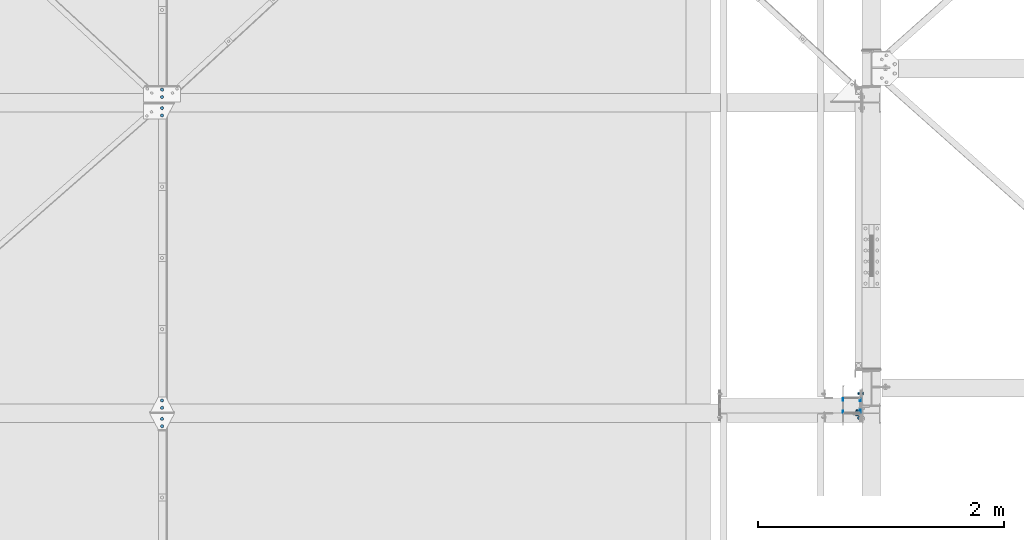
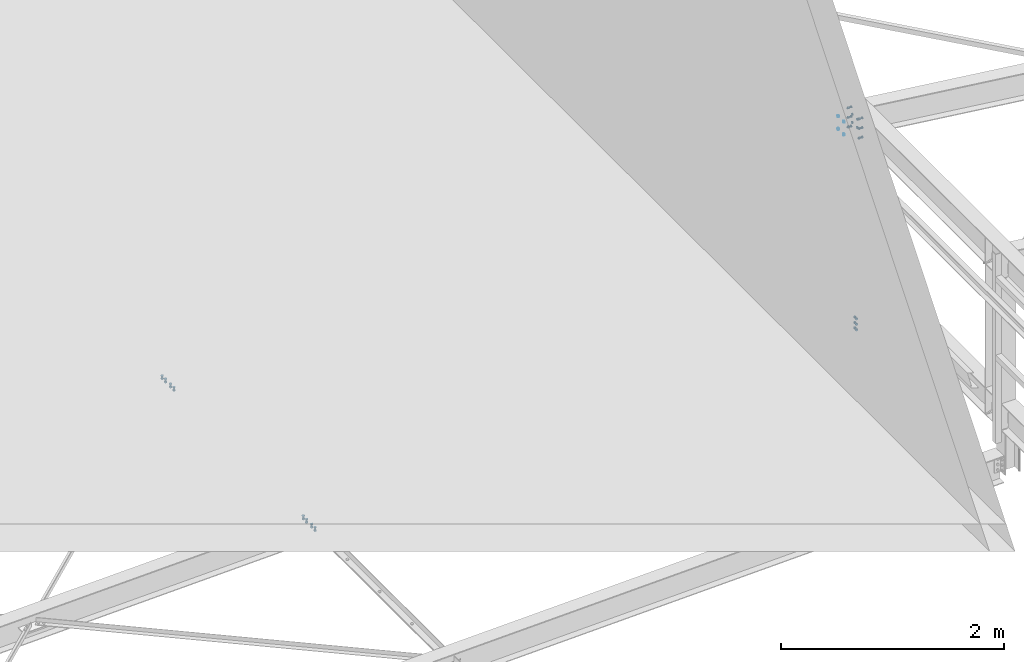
# One storey, part 97 of 3134: 8 mechanical fasteners, 5 elements without a shape of their own.
"""IFC2X3 building model written with IfcOpenShell, lengths in millimetres."""

from ifc_helpers import new_model, si_unit, frame, origin_with_axes, place, context, subcontext, project, spatial, faceted_brep, source, transform, mapped, material, type_object, element, aggregate, save


model = new_model("IFC2X3")

# Units and contexts
model_context = context("Model", 3, precision=1e-05, world=origin_with_axes())
body_context = subcontext(model_context, "Body", "Model", "MODEL_VIEW")
ifc_project = project(units=[si_unit("LENGTHUNIT", "METRE", prefix="MILLI"), si_unit("AREAUNIT", "SQUARE_METRE"), si_unit("VOLUMEUNIT", "CUBIC_METRE"), si_unit("MASSUNIT", "GRAM", prefix="KILO"), si_unit("TIMEUNIT", "SECOND"), si_unit("PLANEANGLEUNIT", "RADIAN"), si_unit("SOLIDANGLEUNIT", "STERADIAN"), si_unit("THERMODYNAMICTEMPERATUREUNIT", "DEGREE_CELSIUS"), si_unit("LUMINOUSINTENSITYUNIT", "LUMEN")], contexts=[model_context])

# Site, building, storey
site_placement = place(None, origin_with_axes())
site = spatial("IfcSite", under=ifc_project, at=site_placement, CompositionType="ELEMENT")
building_placement = place(site_placement, origin_with_axes())
building = spatial("IfcBuilding", under=site, at=building_placement, Name="Undefined", CompositionType="ELEMENT")
storey_placement = place(building_placement, origin_with_axes())
storey = spatial("IfcBuildingStorey", under=building, at=storey_placement, Name="Undefined", CompositionType="ELEMENT", Elevation=0.0)

# Assembly, mechanical fasteners
assembly_1_placement = place(storey_placement, origin_with_axes())
assembly_1 = element("IfcElementAssembly", 1, at=assembly_1_placement, inside=storey, AssemblyPlace="NOTDEFINED", PredefinedType="RIGID_FRAME")
ifc_material = material(Name="8.8")
mechanical_fastener_type = type_object("IfcMechanicalFastenerType", Name="Bolt assembly")
shared_shape_1 = source(origin_with_axes(), body_context, "Body", "Brep", [
    faceted_brep([(9.0, -3.46568413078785e-07, 0.0), (7.79422863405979, -3.46568413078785e-07, 4.50000000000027), (4.49999999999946, -3.46568413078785e-07, 7.79422863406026), (-9.3270238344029e-13, -3.46568413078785e-07, 9.0), (-4.50000000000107, -3.46568413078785e-07, 7.79422863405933), (-7.79422863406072, -3.46568413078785e-07, 4.49999999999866), (-9.0, -3.46568413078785e-07, -1.86540476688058e-12), (-7.79422863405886, -3.46568413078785e-07, -4.50000000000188), (-4.49999999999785, -3.46568413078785e-07, -7.79422863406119), (2.78811514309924e-12, -3.46568413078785e-07, -9.0), (4.50000000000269, -3.46568413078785e-07, -7.7942286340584), (7.79422863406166, -3.46568413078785e-07, -4.49999999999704), (7.79422863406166, 6.1, -4.49999999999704), (4.50000000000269, 6.1, -7.7942286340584), (2.78811514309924e-12, 6.1, -9.0), (-4.49999999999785, 6.1, -7.79422863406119), (-7.79422863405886, 6.1, -4.50000000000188), (-9.0, 6.1, -1.86540476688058e-12), (-7.79422863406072, 6.1, 4.49999999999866), (-4.50000000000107, 6.1, 7.79422863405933), (-9.3270238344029e-13, 6.1, 9.0), (4.49999999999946, 6.1, 7.79422863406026), (7.79422863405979, 6.1, 4.50000000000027), (9.0, 6.1, 0.0)], [[[0, 1, 2, 3, 4, 5, 6, 7, 8, 9, 10, 11]], [[12, 13, 14, 15, 16, 17, 18, 19, 20, 21, 22, 23]], [[0, 23, 22, 1]], [[1, 22, 21, 2]], [[2, 21, 20, 3]], [[3, 20, 19, 4]], [[4, 19, 18, 5]], [[5, 18, 17, 6]], [[6, 17, 16, 7]], [[7, 16, 15, 8]], [[8, 15, 14, 9]], [[9, 14, 13, 10]], [[10, 13, 12, 11]], [[11, 12, 23, 0]]]),
])
mechanical_fastener_1_placement = place(assembly_1_placement, frame((20615.0, 27156.5019072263, 5760.0), z_axis=(0.0, 0.0, 1.0), x_axis=(0.0, -1.0, 0.0)))
mechanical_fastener_1 = element("IfcMechanicalFastener", 2, at=mechanical_fastener_1_placement, type_object=mechanical_fastener_type, material=ifc_material, Name="Bolt assembly", NominalDiameter=16.0, NominalLength=6.0, context=body_context, shape_type="MappedRepresentation", body=[
    mapped(shared_shape_1, transform((0.0, 0.0, -70.0))),
    mapped(shared_shape_1, transform((100.0, 0.0, -70.0))),
    mapped(shared_shape_1, transform((0.0, 0.0, 70.0))),
    mapped(shared_shape_1, transform((100.0, 0.0, 70.0))),
])
shared_shape_2 = source(origin_with_axes(), body_context, "Body", "Brep", [
    faceted_brep([(11.0, 0.0, 0.0), (9.52627944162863, 0.0, 5.50000000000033), (5.49999999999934, 0.0, 9.5262794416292), (-1.13996957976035e-12, 0.0, 11.0), (-5.50000000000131, 0.0, 9.52627944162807), (-9.52627944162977, 0.0, 5.49999999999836), (-11.0, 0.0, -2.27993915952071e-12), (-9.5262794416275, 0.0, -5.5000000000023), (-5.49999999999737, 0.0, -9.52627944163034), (3.40769628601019e-12, 0.0, -11.0), (5.50000000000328, 0.0, -9.52627944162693), (9.52627944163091, 0.0, -5.49999999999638), (9.52627944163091, 10.1, -5.49999999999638), (5.50000000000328, 10.1, -9.52627944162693), (3.40769628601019e-12, 10.1, -11.0), (-5.49999999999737, 10.1, -9.52627944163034), (-9.5262794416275, 10.1, -5.5000000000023), (-11.0, 10.1, -2.27993915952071e-12), (-9.52627944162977, 10.1, 5.49999999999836), (-5.50000000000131, 10.1, 9.52627944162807), (-1.13996957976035e-12, 10.1, 11.0), (5.49999999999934, 10.1, 9.5262794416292), (9.52627944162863, 10.1, 5.50000000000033), (11.0, 10.1, 0.0)], [[[0, 1, 2, 3, 4, 5, 6, 7, 8, 9, 10, 11]], [[12, 13, 14, 15, 16, 17, 18, 19, 20, 21, 22, 23]], [[0, 23, 22, 1]], [[1, 22, 21, 2]], [[2, 21, 20, 3]], [[3, 20, 19, 4]], [[4, 19, 18, 5]], [[5, 18, 17, 6]], [[6, 17, 16, 7]], [[7, 16, 15, 8]], [[8, 15, 14, 9]], [[9, 14, 13, 10]], [[10, 13, 12, 11]], [[11, 12, 23, 0]]]),
])
mechanical_fastener_2_placement = place(assembly_1_placement, frame((20755.0, 27151.5019072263, 5760.0), z_axis=(0.0, 0.0, 1.0), x_axis=(0.0, -1.0, 0.0)))
mechanical_fastener_2 = element("IfcMechanicalFastener", 3, at=mechanical_fastener_2_placement, type_object=mechanical_fastener_type, material=ifc_material, Name="Bolt assembly", NominalDiameter=20.0, NominalLength=10.0, context=body_context, shape_type="MappedRepresentation", body=[
    mapped(shared_shape_2, transform((0.0, 0.0, -45.0))),
    mapped(shared_shape_2, transform((90.0, 0.0, -45.0))),
    mapped(shared_shape_2, transform((0.0, 0.0, 45.0))),
    mapped(shared_shape_2, transform((90.0, 0.0, 45.0))),
])
aggregate(assembly_1, [mechanical_fastener_2, mechanical_fastener_1])

# Assembly, mechanical fastener
assembly_2_placement = place(storey_placement, origin_with_axes())
assembly_2 = element("IfcElementAssembly", 4, at=assembly_2_placement, inside=storey, Name="300", AssemblyPlace="NOTDEFINED", PredefinedType="RIGID_FRAME")
shared_shape_3 = source(origin_with_axes(), body_context, "Body", "Brep", [
    faceted_brep([(13.856406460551, -30.0, 0.0), (6.92820323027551, -30.0, 12.0), (-6.92820323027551, -30.0, 12.0), (-13.856406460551, -30.0, 1.69692038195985e-15), (-6.92820323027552, -30.0, -12.0), (6.9282032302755, -30.0, -12.0), (6.9282032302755, -20.0, -12.0), (-6.92820323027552, -20.0, -12.0), (-13.856406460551, -20.0, 1.69692038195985e-15), (-6.92820323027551, -20.0, 12.0), (6.92820323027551, -20.0, 12.0), (13.856406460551, -20.0, 0.0), (8.0, -20.0, 0.0), (6.92820323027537, -20.0, 4.00000000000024), (3.99999999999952, -20.0, 6.92820323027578), (-8.29068785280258e-13, -20.0, 8.0), (-4.00000000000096, -20.0, 6.92820323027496), (-6.9282032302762, -20.0, 3.99999999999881), (-8.0, -20.0, -1.65813757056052e-12), (-6.92820323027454, -20.0, -4.00000000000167), (-3.99999999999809, -20.0, -6.92820323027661), (2.47832457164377e-12, -20.0, -8.0), (4.00000000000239, -20.0, -6.92820323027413), (6.92820323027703, -20.0, -3.99999999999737), (6.92820323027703, 20.0, -3.99999999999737), (4.00000000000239, 20.0, -6.92820323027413), (2.47832457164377e-12, 20.0, -8.0), (-3.99999999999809, 20.0, -6.92820323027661), (-6.92820323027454, 20.0, -4.00000000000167), (-8.0, 20.0, -1.65813757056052e-12), (-6.9282032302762, 20.0, 3.99999999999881), (-4.00000000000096, 20.0, 6.92820323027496), (-8.29068785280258e-13, 20.0, 8.0), (3.99999999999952, 20.0, 6.92820323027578), (6.92820323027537, 20.0, 4.00000000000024), (8.0, 20.0, 0.0), (13.856406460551, 0.0, 0.0), (6.92820323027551, 0.0, 12.0), (-6.92820323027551, 0.0, 12.0), (-13.856406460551, 0.0, 1.69692038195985e-15), (-6.92820323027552, 0.0, -12.0), (6.9282032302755, 0.0, -12.0), (6.9282032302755, 12.9999996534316, -12.0), (-6.92820323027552, 12.9999996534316, -12.0), (-13.856406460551, 12.9999996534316, 1.69692038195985e-15), (-6.92820323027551, 12.9999996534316, 12.0), (6.92820323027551, 12.9999996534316, 12.0), (13.856406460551, 12.9999996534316, 0.0)], [[[0, 1, 2, 3, 4, 5]], [[6, 7, 8, 9, 10, 11]], [[0, 11, 10, 1]], [[1, 10, 9, 2]], [[2, 9, 8, 3]], [[3, 8, 7, 4]], [[4, 7, 6, 5]], [[5, 6, 11, 0]], [[12, 13, 14, 15, 16, 17, 18, 19, 20, 21, 22, 23]], [[24, 25, 26, 27, 28, 29, 30, 31, 32, 33, 34, 35]], [[12, 35, 34, 13]], [[13, 34, 33, 14]], [[14, 33, 32, 15]], [[15, 32, 31, 16]], [[16, 31, 30, 17]], [[17, 30, 29, 18]], [[18, 29, 28, 19]], [[19, 28, 27, 20]], [[20, 27, 26, 21]], [[21, 26, 25, 22]], [[22, 25, 24, 23]], [[23, 24, 35, 12]], [[36, 37, 38, 39, 40, 41]], [[42, 43, 44, 45, 46, 47]], [[36, 47, 46, 37]], [[37, 46, 45, 38]], [[38, 45, 44, 39]], [[39, 44, 43, 40]], [[40, 43, 42, 41]], [[41, 42, 47, 36]]]),
    faceted_brep([(9.0, -10.1000003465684, 0.0), (7.79422863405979, -10.1000003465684, 4.50000000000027), (4.49999999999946, -10.1000003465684, 7.79422863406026), (-9.3270238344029e-13, -10.1000003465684, 9.0), (-4.50000000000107, -10.1000003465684, 7.79422863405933), (-7.79422863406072, -10.1000003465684, 4.49999999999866), (-9.0, -10.1000003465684, -1.86540476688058e-12), (-7.79422863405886, -10.1000003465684, -4.50000000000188), (-4.49999999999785, -10.1000003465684, -7.79422863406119), (2.78811514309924e-12, -10.1000003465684, -9.0), (4.50000000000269, -10.1000003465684, -7.7942286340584), (7.79422863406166, -10.1000003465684, -4.49999999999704), (7.79422863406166, -3.46568413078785e-07, -4.49999999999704), (4.50000000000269, -3.46568413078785e-07, -7.7942286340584), (2.78811514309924e-12, -3.46568413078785e-07, -9.0), (-4.49999999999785, -3.46568413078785e-07, -7.79422863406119), (-7.79422863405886, -3.46568413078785e-07, -4.50000000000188), (-9.0, -3.46568413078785e-07, -1.86540476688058e-12), (-7.79422863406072, -3.46568413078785e-07, 4.49999999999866), (-4.50000000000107, -3.46568413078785e-07, 7.79422863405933), (-9.3270238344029e-13, -3.46568413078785e-07, 9.0), (4.49999999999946, -3.46568413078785e-07, 7.79422863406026), (7.79422863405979, -3.46568413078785e-07, 4.50000000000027), (9.0, -3.46568413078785e-07, 0.0), (9.0, -19.9, 0.0), (7.79422863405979, -19.9, 4.50000000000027), (4.49999999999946, -19.9, 7.79422863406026), (-9.3270238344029e-13, -19.9, 9.0), (-4.50000000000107, -19.9, 7.79422863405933), (-7.79422863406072, -19.9, 4.49999999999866), (-9.0, -19.9, -1.86540476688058e-12), (-7.79422863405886, -19.9, -4.50000000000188), (-4.49999999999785, -19.9, -7.79422863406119), (2.78811514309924e-12, -19.9, -9.0), (4.50000000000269, -19.9, -7.7942286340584), (7.79422863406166, -19.9, -4.49999999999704), (7.79422863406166, -9.89999997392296, -4.49999999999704), (4.50000000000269, -9.89999997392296, -7.7942286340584), (2.78811514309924e-12, -9.89999997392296, -9.0), (-4.49999999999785, -9.89999997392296, -7.79422863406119), (-7.79422863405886, -9.89999997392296, -4.50000000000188), (-9.0, -9.89999997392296, -1.86540476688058e-12), (-7.79422863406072, -9.89999997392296, 4.49999999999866), (-4.50000000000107, -9.89999997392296, 7.79422863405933), (-9.3270238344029e-13, -9.89999997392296, 9.0), (4.49999999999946, -9.89999997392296, 7.79422863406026), (7.79422863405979, -9.89999997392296, 4.50000000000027), (9.0, -9.89999997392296, 0.0)], [[[0, 1, 2, 3, 4, 5, 6, 7, 8, 9, 10, 11]], [[12, 13, 14, 15, 16, 17, 18, 19, 20, 21, 22, 23]], [[0, 23, 22, 1]], [[1, 22, 21, 2]], [[2, 21, 20, 3]], [[3, 20, 19, 4]], [[4, 19, 18, 5]], [[5, 18, 17, 6]], [[6, 17, 16, 7]], [[7, 16, 15, 8]], [[8, 15, 14, 9]], [[9, 14, 13, 10]], [[10, 13, 12, 11]], [[11, 12, 23, 0]], [[24, 25, 26, 27, 28, 29, 30, 31, 32, 33, 34, 35]], [[36, 37, 38, 39, 40, 41, 42, 43, 44, 45, 46, 47]], [[24, 47, 46, 25]], [[25, 46, 45, 26]], [[26, 45, 44, 27]], [[27, 44, 43, 28]], [[28, 43, 42, 29]], [[29, 42, 41, 30]], [[30, 41, 40, 31]], [[31, 40, 39, 32]], [[32, 39, 38, 33]], [[33, 38, 37, 34]], [[34, 37, 36, 35]], [[35, 36, 47, 24]]]),
])
mechanical_fastener_3_placement = place(assembly_2_placement, frame((20755.0, 27106.5019072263, 5846.5), z_axis=(0.0, 1.0, 0.0), x_axis=(0.0, 0.0, -1.0)))
mechanical_fastener_3 = element("IfcMechanicalFastener", 5, at=mechanical_fastener_3_placement, type_object=mechanical_fastener_type, material=ifc_material, Name="Bolt assembly", NominalDiameter=16.0, NominalLength=40.0, context=body_context, shape_type="MappedRepresentation", body=[
    mapped(shared_shape_3, transform((0.0, 0.0, -100.0))),
    mapped(shared_shape_3, transform((105.0, 0.0, -100.0))),
    mapped(shared_shape_3, transform((210.0, 0.0, -100.0))),
    mapped(shared_shape_3, transform((0.0, 0.0, 100.0))),
    mapped(shared_shape_3, transform((105.0, 0.0, 100.0))),
    mapped(shared_shape_3, transform((210.0, 0.0, 100.0))),
])
aggregate(assembly_2, [mechanical_fastener_3])

# Assembly, mechanical fasteners
assembly_3_placement = place(storey_placement, origin_with_axes())
assembly_3 = element("IfcElementAssembly", 6, at=assembly_3_placement, inside=storey, Name="300", AssemblyPlace="NOTDEFINED", PredefinedType="RIGID_FRAME")
shared_shape_4 = source(origin_with_axes(), body_context, "Body", "Brep", [
    faceted_brep([(13.856406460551, -21.0000017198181, 0.0), (6.92820323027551, -21.0000017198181, 12.0), (-6.92820323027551, -21.0000017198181, 12.0), (-13.856406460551, -21.0000017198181, 1.69692038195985e-15), (-6.92820323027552, -21.0000017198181, -12.0), (6.9282032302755, -21.0000017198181, -12.0), (6.9282032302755, -11.0000017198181, -12.0), (-6.92820323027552, -11.0000017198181, -12.0), (-13.856406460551, -11.0000017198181, 1.69692038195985e-15), (-6.92820323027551, -11.0000017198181, 12.0), (6.92820323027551, -11.0000017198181, 12.0), (13.856406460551, -11.0000017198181, 0.0), (8.0, -11.0000017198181, 0.0), (6.92820323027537, -11.0000017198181, 4.00000000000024), (3.99999999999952, -11.0000017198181, 6.92820323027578), (-8.29068785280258e-13, -11.0000017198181, 8.0), (-4.00000000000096, -11.0000017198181, 6.92820323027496), (-6.9282032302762, -11.0000017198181, 3.99999999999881), (-8.0, -11.0000017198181, -1.65813757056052e-12), (-6.92820323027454, -11.0000017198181, -4.00000000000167), (-3.99999999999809, -11.0000017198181, -6.92820323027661), (2.47832457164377e-12, -11.0000017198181, -8.0), (4.00000000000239, -11.0000017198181, -6.92820323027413), (6.92820323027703, -11.0000017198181, -3.99999999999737), (6.92820323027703, 29.0, -3.99999999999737), (4.00000000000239, 29.0, -6.92820323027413), (2.47832457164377e-12, 29.0, -8.0), (-3.99999999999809, 29.0, -6.92820323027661), (-6.92820323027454, 29.0, -4.00000000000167), (-8.0, 29.0, -1.65813757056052e-12), (-6.9282032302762, 29.0, 3.99999999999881), (-4.00000000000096, 29.0, 6.92820323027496), (-8.29068785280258e-13, 29.0, 8.0), (3.99999999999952, 29.0, 6.92820323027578), (6.92820323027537, 29.0, 4.00000000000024), (8.0, 29.0, 0.0), (13.856406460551, 10.9999982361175, 0.0), (6.92820323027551, 10.9999982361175, 12.0), (-6.92820323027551, 10.9999982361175, 12.0), (-13.856406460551, 10.9999982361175, 1.69692038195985e-15), (-6.92820323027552, 10.9999982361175, -12.0), (6.9282032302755, 10.9999982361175, -12.0), (6.9282032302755, 23.9999999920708, -12.0), (-6.92820323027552, 23.9999999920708, -12.0), (-13.856406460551, 23.9999999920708, 1.69692038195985e-15), (-6.92820323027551, 23.9999999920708, 12.0), (6.92820323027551, 23.9999999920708, 12.0), (13.856406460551, 23.9999999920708, 0.0)], [[[0, 1, 2, 3, 4, 5]], [[6, 7, 8, 9, 10, 11]], [[0, 11, 10, 1]], [[1, 10, 9, 2]], [[2, 9, 8, 3]], [[3, 8, 7, 4]], [[4, 7, 6, 5]], [[5, 6, 11, 0]], [[12, 13, 14, 15, 16, 17, 18, 19, 20, 21, 22, 23]], [[24, 25, 26, 27, 28, 29, 30, 31, 32, 33, 34, 35]], [[12, 35, 34, 13]], [[13, 34, 33, 14]], [[14, 33, 32, 15]], [[15, 32, 31, 16]], [[16, 31, 30, 17]], [[17, 30, 29, 18]], [[18, 29, 28, 19]], [[19, 28, 27, 20]], [[20, 27, 26, 21]], [[21, 26, 25, 22]], [[22, 25, 24, 23]], [[23, 24, 35, 12]], [[36, 37, 38, 39, 40, 41]], [[42, 43, 44, 45, 46, 47]], [[36, 47, 46, 37]], [[37, 46, 45, 38]], [[38, 45, 44, 39]], [[39, 44, 43, 40]], [[40, 43, 42, 41]], [[41, 42, 47, 36]]]),
    faceted_brep([(9.0, -10.9000017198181, 0.0), (7.79422863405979, -10.9000017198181, 4.50000000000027), (4.49999999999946, -10.9000017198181, 7.79422863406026), (-9.3270238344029e-13, -10.9000017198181, 9.0), (-4.50000000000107, -10.9000017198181, 7.79422863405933), (-7.79422863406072, -10.9000017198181, 4.49999999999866), (-9.0, -10.9000017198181, -1.86540476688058e-12), (-7.79422863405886, -10.9000017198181, -4.50000000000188), (-4.49999999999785, -10.9000017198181, -7.79422863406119), (2.78811514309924e-12, -10.9000017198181, -9.0), (4.50000000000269, -10.9000017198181, -7.7942286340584), (7.79422863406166, -10.9000017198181, -4.49999999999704), (7.79422863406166, -3.9, -4.49999999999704), (4.50000000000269, -3.9, -7.7942286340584), (2.78811514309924e-12, -3.9, -9.0), (-4.49999999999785, -3.9, -7.79422863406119), (-7.79422863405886, -3.9, -4.50000000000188), (-9.0, -3.9, -1.86540476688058e-12), (-7.79422863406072, -3.9, 4.49999999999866), (-4.50000000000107, -3.9, 7.79422863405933), (-9.3270238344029e-13, -3.9, 9.0), (4.49999999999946, -3.9, 7.79422863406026), (7.79422863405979, -3.9, 4.50000000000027), (9.0, -3.9, 0.0), (9.0, -3.99999624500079, 0.0), (7.79422863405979, -3.99999624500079, 4.50000000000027), (4.49999999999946, -3.99999624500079, 7.79422863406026), (-9.3270238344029e-13, -3.99999624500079, 9.0), (-4.50000000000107, -3.99999624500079, 7.79422863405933), (-7.79422863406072, -3.99999624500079, 4.49999999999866), (-9.0, -3.99999624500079, -1.86540476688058e-12), (-7.79422863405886, -3.99999624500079, -4.50000000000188), (-4.49999999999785, -3.99999624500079, -7.79422863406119), (2.78811514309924e-12, -3.99999624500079, -9.0), (4.50000000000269, -3.99999624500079, -7.7942286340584), (7.79422863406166, -3.99999624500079, -4.49999999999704), (7.79422863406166, 4.00000375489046, -4.49999999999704), (4.50000000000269, 4.00000375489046, -7.7942286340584), (2.78811514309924e-12, 4.00000375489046, -9.0), (-4.49999999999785, 4.00000375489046, -7.79422863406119), (-7.79422863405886, 4.00000375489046, -4.50000000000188), (-9.0, 4.00000375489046, -1.86540476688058e-12), (-7.79422863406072, 4.00000375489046, 4.49999999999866), (-4.50000000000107, 4.00000375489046, 7.79422863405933), (-9.3270238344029e-13, 4.00000375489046, 9.0), (4.49999999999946, 4.00000375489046, 7.79422863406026), (7.79422863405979, 4.00000375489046, 4.50000000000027), (9.0, 4.00000375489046, 0.0), (9.0, 3.9, 0.0), (7.79422863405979, 3.9, 4.50000000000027), (4.49999999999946, 3.9, 7.79422863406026), (-9.3270238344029e-13, 3.9, 9.0), (-4.50000000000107, 3.9, 7.79422863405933), (-7.79422863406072, 3.9, 4.49999999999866), (-9.0, 3.9, -1.86540476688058e-12), (-7.79422863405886, 3.9, -4.50000000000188), (-4.49999999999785, 3.9, -7.79422863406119), (2.78811514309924e-12, 3.9, -9.0), (4.50000000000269, 3.9, -7.7942286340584), (7.79422863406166, 3.9, -4.49999999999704), (7.79422863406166, 10.9999982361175, -4.49999999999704), (4.50000000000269, 10.9999982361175, -7.7942286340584), (2.78811514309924e-12, 10.9999982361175, -9.0), (-4.49999999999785, 10.9999982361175, -7.79422863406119), (-7.79422863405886, 10.9999982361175, -4.50000000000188), (-9.0, 10.9999982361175, -1.86540476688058e-12), (-7.79422863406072, 10.9999982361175, 4.49999999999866), (-4.50000000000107, 10.9999982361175, 7.79422863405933), (-9.3270238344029e-13, 10.9999982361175, 9.0), (4.49999999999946, 10.9999982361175, 7.79422863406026), (7.79422863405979, 10.9999982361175, 4.50000000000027), (9.0, 10.9999982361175, 0.0)], [[[0, 1, 2, 3, 4, 5, 6, 7, 8, 9, 10, 11]], [[12, 13, 14, 15, 16, 17, 18, 19, 20, 21, 22, 23]], [[0, 23, 22, 1]], [[1, 22, 21, 2]], [[2, 21, 20, 3]], [[3, 20, 19, 4]], [[4, 19, 18, 5]], [[5, 18, 17, 6]], [[6, 17, 16, 7]], [[7, 16, 15, 8]], [[8, 15, 14, 9]], [[9, 14, 13, 10]], [[10, 13, 12, 11]], [[11, 12, 23, 0]], [[24, 25, 26, 27, 28, 29, 30, 31, 32, 33, 34, 35]], [[36, 37, 38, 39, 40, 41, 42, 43, 44, 45, 46, 47]], [[24, 47, 46, 25]], [[25, 46, 45, 26]], [[26, 45, 44, 27]], [[27, 44, 43, 28]], [[28, 43, 42, 29]], [[29, 42, 41, 30]], [[30, 41, 40, 31]], [[31, 40, 39, 32]], [[32, 39, 38, 33]], [[33, 38, 37, 34]], [[34, 37, 36, 35]], [[35, 36, 47, 24]], [[48, 49, 50, 51, 52, 53, 54, 55, 56, 57, 58, 59]], [[60, 61, 62, 63, 64, 65, 66, 67, 68, 69, 70, 71]], [[48, 71, 70, 49]], [[49, 70, 69, 50]], [[50, 69, 68, 51]], [[51, 68, 67, 52]], [[52, 67, 66, 53]], [[53, 66, 65, 54]], [[54, 65, 64, 55]], [[55, 64, 63, 56]], [[56, 63, 62, 57]], [[57, 62, 61, 58]], [[58, 61, 60, 59]], [[59, 60, 71, 48]]]),
])
mechanical_fastener_4_placement = place(assembly_3_placement, frame((15072.5010771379, 26998.75, 3386.35293761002), z_axis=(0.999519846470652, 0.0, 0.0309851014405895), x_axis=(0.0, -1.0, 0.0)))
mechanical_fastener_4 = element("IfcMechanicalFastener", 7, at=mechanical_fastener_4_placement, type_object=mechanical_fastener_type, material=ifc_material, Name="Bolt assembly", NominalDiameter=16.0, NominalLength=40.0, context=body_context, shape_type="MappedRepresentation", body=[
    mapped(shared_shape_4, transform((0.0, 0.0, 0.0))),
    mapped(shared_shape_4, transform((59.9999999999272, 0.0, 5.40239852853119e-10))),
])
mechanical_fastener_5_placement = place(assembly_3_placement, frame((15072.5010771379, 27088.75, 3386.35293761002), z_axis=(-0.999519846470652, 0.0, -0.0309851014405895), x_axis=(0.0, 1.0, 0.0)))
mechanical_fastener_5 = element("IfcMechanicalFastener", 8, at=mechanical_fastener_5_placement, type_object=mechanical_fastener_type, material=ifc_material, Name="Bolt assembly", NominalDiameter=16.0, NominalLength=40.0, context=body_context, shape_type="MappedRepresentation", body=[
    mapped(shared_shape_4, transform((0.0, 0.0, 0.0))),
    mapped(shared_shape_4, transform((59.9999999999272, 0.0, 5.40239852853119e-10))),
])
aggregate(assembly_3, [mechanical_fastener_4, mechanical_fastener_5])

assembly_4_placement = place(storey_placement, origin_with_axes())
assembly_4 = element("IfcElementAssembly", 9, at=assembly_4_placement, inside=storey, Name="300", AssemblyPlace="NOTDEFINED", PredefinedType="RIGID_FRAME")
mechanical_fastener_6_placement = place(assembly_4_placement, frame((15072.5010771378, 29529.999366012, 3386.35293760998), z_axis=(0.999519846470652, 0.0, 0.0309851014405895), x_axis=(0.0, -1.0, 0.0)))
mechanical_fastener_6 = element("IfcMechanicalFastener", 10, at=mechanical_fastener_6_placement, type_object=mechanical_fastener_type, material=ifc_material, Name="Bolt assembly", NominalDiameter=16.0, NominalLength=40.0, context=body_context, shape_type="MappedRepresentation", body=[
    mapped(shared_shape_4, transform((0.0, 0.0, 0.0))),
    mapped(shared_shape_4, transform((59.9999999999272, 0.0, 5.40239852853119e-10))),
])
mechanical_fastener_7_placement = place(assembly_4_placement, frame((15072.5010771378, 29619.999366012, 3386.35293760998), z_axis=(-0.999519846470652, 0.0, -0.0309851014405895), x_axis=(0.0, 1.0, 0.0)))
mechanical_fastener_7 = element("IfcMechanicalFastener", 11, at=mechanical_fastener_7_placement, type_object=mechanical_fastener_type, material=ifc_material, Name="Bolt assembly", NominalDiameter=16.0, NominalLength=40.0, context=body_context, shape_type="MappedRepresentation", body=[
    mapped(shared_shape_4, transform((0.0, 0.0, 0.0))),
    mapped(shared_shape_4, transform((59.9999999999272, 0.0, 5.40239852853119e-10))),
])
aggregate(assembly_4, [mechanical_fastener_6, mechanical_fastener_7])

# Assembly, mechanical fastener
assembly_5_placement = place(storey_placement, origin_with_axes())
assembly_5 = element("IfcElementAssembly", 12, at=assembly_5_placement, inside=storey, AssemblyPlace="NOTDEFINED", PredefinedType="RIGID_FRAME")
shared_shape_5 = source(origin_with_axes(), body_context, "Body", "Brep", [
    faceted_brep([(13.856406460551, -20.0400000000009, 0.0), (6.92820323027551, -20.0400000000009, 12.0), (-6.92820323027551, -20.0400000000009, 12.0), (-13.856406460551, -20.0400000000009, 1.69692038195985e-15), (-6.92820323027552, -20.0400000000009, -12.0), (6.9282032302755, -20.0400000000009, -12.0), (6.9282032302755, -10.0400000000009, -12.0), (-6.92820323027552, -10.0400000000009, -12.0), (-13.856406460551, -10.0400000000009, 1.69692038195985e-15), (-6.92820323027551, -10.0400000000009, 12.0), (6.92820323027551, -10.0400000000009, 12.0), (13.856406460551, -10.0400000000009, 0.0), (8.0, -10.0400000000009, 0.0), (6.92820323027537, -10.0400000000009, 4.00000000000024), (3.99999999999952, -10.0400000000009, 6.92820323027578), (-8.29068785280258e-13, -10.0400000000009, 8.0), (-4.00000000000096, -10.0400000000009, 6.92820323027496), (-6.9282032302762, -10.0400000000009, 3.99999999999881), (-8.0, -10.0400000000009, -1.65813757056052e-12), (-6.92820323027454, -10.0400000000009, -4.00000000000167), (-3.99999999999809, -10.0400000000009, -6.92820323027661), (2.47832457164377e-12, -10.0400000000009, -8.0), (4.00000000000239, -10.0400000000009, -6.92820323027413), (6.92820323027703, -10.0400000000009, -3.99999999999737), (6.92820323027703, 29.9599999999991, -3.99999999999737), (4.00000000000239, 29.9599999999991, -6.92820323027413), (2.47832457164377e-12, 29.9599999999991, -8.0), (-3.99999999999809, 29.9599999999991, -6.92820323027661), (-6.92820323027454, 29.9599999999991, -4.00000000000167), (-8.0, 29.9599999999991, -1.65813757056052e-12), (-6.9282032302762, 29.9599999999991, 3.99999999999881), (-4.00000000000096, 29.9599999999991, 6.92820323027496), (-8.29068785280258e-13, 29.9599999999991, 8.0), (3.99999999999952, 29.9599999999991, 6.92820323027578), (6.92820323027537, 29.9599999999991, 4.00000000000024), (8.0, 29.9599999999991, 0.0), (13.856406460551, 10.0400000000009, 0.0), (6.92820323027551, 10.0400000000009, 12.0), (-6.92820323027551, 10.0400000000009, 12.0), (-13.856406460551, 10.0400000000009, 1.69692038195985e-15), (-6.92820323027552, 10.0400000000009, -12.0), (6.9282032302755, 10.0400000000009, -12.0), (6.9282032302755, 23.0400000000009, -12.0), (-6.92820323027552, 23.0400000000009, -12.0), (-13.856406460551, 23.0400000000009, 1.69692038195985e-15), (-6.92820323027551, 23.0400000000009, 12.0), (6.92820323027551, 23.0400000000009, 12.0), (13.856406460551, 23.0400000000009, 0.0)], [[[0, 1, 2, 3, 4, 5]], [[6, 7, 8, 9, 10, 11]], [[0, 11, 10, 1]], [[1, 10, 9, 2]], [[2, 9, 8, 3]], [[3, 8, 7, 4]], [[4, 7, 6, 5]], [[5, 6, 11, 0]], [[12, 13, 14, 15, 16, 17, 18, 19, 20, 21, 22, 23]], [[24, 25, 26, 27, 28, 29, 30, 31, 32, 33, 34, 35]], [[12, 35, 34, 13]], [[13, 34, 33, 14]], [[14, 33, 32, 15]], [[15, 32, 31, 16]], [[16, 31, 30, 17]], [[17, 30, 29, 18]], [[18, 29, 28, 19]], [[19, 28, 27, 20]], [[20, 27, 26, 21]], [[21, 26, 25, 22]], [[22, 25, 24, 23]], [[23, 24, 35, 12]], [[36, 37, 38, 39, 40, 41]], [[42, 43, 44, 45, 46, 47]], [[36, 47, 46, 37]], [[37, 46, 45, 38]], [[38, 45, 44, 39]], [[39, 44, 43, 40]], [[40, 43, 42, 41]], [[41, 42, 47, 36]]]),
    faceted_brep([(9.0, -3.04999995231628, 0.0), (7.79422863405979, -3.04999995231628, 4.50000000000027), (4.49999999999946, -3.04999995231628, 7.79422863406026), (-9.3270238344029e-13, -3.04999995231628, 9.0), (-4.50000000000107, -3.04999995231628, 7.79422863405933), (-7.79422863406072, -3.04999995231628, 4.49999999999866), (-9.0, -3.04999995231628, -1.86540476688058e-12), (-7.79422863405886, -3.04999995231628, -4.50000000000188), (-4.49999999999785, -3.04999995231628, -7.79422863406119), (2.78811514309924e-12, -3.04999995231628, -9.0), (4.50000000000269, -3.04999995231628, -7.7942286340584), (7.79422863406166, -3.04999995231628, -4.49999999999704), (7.79422863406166, 3.04999995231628, -4.49999999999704), (4.50000000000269, 3.04999995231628, -7.7942286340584), (2.78811514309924e-12, 3.04999995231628, -9.0), (-4.49999999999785, 3.04999995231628, -7.79422863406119), (-7.79422863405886, 3.04999995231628, -4.50000000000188), (-9.0, 3.04999995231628, -1.86540476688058e-12), (-7.79422863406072, 3.04999995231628, 4.49999999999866), (-4.50000000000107, 3.04999995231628, 7.79422863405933), (-9.3270238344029e-13, 3.04999995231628, 9.0), (4.49999999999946, 3.04999995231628, 7.79422863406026), (7.79422863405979, 3.04999995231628, 4.50000000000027), (9.0, 3.04999995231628, 0.0), (9.0, -9.94000000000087, 0.0), (7.79422863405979, -9.94000000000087, 4.50000000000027), (4.49999999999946, -9.94000000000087, 7.79422863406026), (-9.3270238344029e-13, -9.94000000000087, 9.0), (-4.50000000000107, -9.94000000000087, 7.79422863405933), (-7.79422863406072, -9.94000000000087, 4.49999999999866), (-9.0, -9.94000000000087, -1.86540476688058e-12), (-7.79422863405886, -9.94000000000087, -4.50000000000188), (-4.49999999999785, -9.94000000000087, -7.79422863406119), (2.78811514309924e-12, -9.94000000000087, -9.0), (4.50000000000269, -9.94000000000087, -7.7942286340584), (7.79422863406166, -9.94000000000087, -4.49999999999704), (7.79422863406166, -2.94000000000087, -4.49999999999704), (4.50000000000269, -2.94000000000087, -7.7942286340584), (2.78811514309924e-12, -2.94000000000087, -9.0), (-4.49999999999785, -2.94000000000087, -7.79422863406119), (-7.79422863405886, -2.94000000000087, -4.50000000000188), (-9.0, -2.94000000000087, -1.86540476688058e-12), (-7.79422863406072, -2.94000000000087, 4.49999999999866), (-4.50000000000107, -2.94000000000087, 7.79422863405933), (-9.3270238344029e-13, -2.94000000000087, 9.0), (4.49999999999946, -2.94000000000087, 7.79422863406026), (7.79422863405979, -2.94000000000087, 4.50000000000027), (9.0, -2.94000000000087, 0.0), (9.0, 2.94000000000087, 0.0), (7.79422863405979, 2.94000000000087, 4.50000000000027), (4.49999999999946, 2.94000000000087, 7.79422863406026), (-9.3270238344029e-13, 2.94000000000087, 9.0), (-4.50000000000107, 2.94000000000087, 7.79422863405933), (-7.79422863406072, 2.94000000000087, 4.49999999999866), (-9.0, 2.94000000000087, -1.86540476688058e-12), (-7.79422863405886, 2.94000000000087, -4.50000000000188), (-4.49999999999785, 2.94000000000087, -7.79422863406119), (2.78811514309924e-12, 2.94000000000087, -9.0), (4.50000000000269, 2.94000000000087, -7.7942286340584), (7.79422863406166, 2.94000000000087, -4.49999999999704), (7.79422863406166, 10.0400000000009, -4.49999999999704), (4.50000000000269, 10.0400000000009, -7.7942286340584), (2.78811514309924e-12, 10.0400000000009, -9.0), (-4.49999999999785, 10.0400000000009, -7.79422863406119), (-7.79422863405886, 10.0400000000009, -4.50000000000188), (-9.0, 10.0400000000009, -1.86540476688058e-12), (-7.79422863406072, 10.0400000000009, 4.49999999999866), (-4.50000000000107, 10.0400000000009, 7.79422863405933), (-9.3270238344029e-13, 10.0400000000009, 9.0), (4.49999999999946, 10.0400000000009, 7.79422863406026), (7.79422863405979, 10.0400000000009, 4.50000000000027), (9.0, 10.0400000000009, 0.0)], [[[0, 1, 2, 3, 4, 5, 6, 7, 8, 9, 10, 11]], [[12, 13, 14, 15, 16, 17, 18, 19, 20, 21, 22, 23]], [[0, 23, 22, 1]], [[1, 22, 21, 2]], [[2, 21, 20, 3]], [[3, 20, 19, 4]], [[4, 19, 18, 5]], [[5, 18, 17, 6]], [[6, 17, 16, 7]], [[7, 16, 15, 8]], [[8, 15, 14, 9]], [[9, 14, 13, 10]], [[10, 13, 12, 11]], [[11, 12, 23, 0]], [[24, 25, 26, 27, 28, 29, 30, 31, 32, 33, 34, 35]], [[36, 37, 38, 39, 40, 41, 42, 43, 44, 45, 46, 47]], [[24, 47, 46, 25]], [[25, 46, 45, 26]], [[26, 45, 44, 27]], [[27, 44, 43, 28]], [[28, 43, 42, 29]], [[29, 42, 41, 30]], [[30, 41, 40, 31]], [[31, 40, 39, 32]], [[32, 39, 38, 33]], [[33, 38, 37, 34]], [[34, 37, 36, 35]], [[35, 36, 47, 24]], [[48, 49, 50, 51, 52, 53, 54, 55, 56, 57, 58, 59]], [[60, 61, 62, 63, 64, 65, 66, 67, 68, 69, 70, 71]], [[48, 71, 70, 49]], [[49, 70, 69, 50]], [[50, 69, 68, 51]], [[51, 68, 67, 52]], [[52, 67, 66, 53]], [[53, 66, 65, 54]], [[54, 65, 64, 55]], [[55, 64, 63, 56]], [[56, 63, 62, 57]], [[57, 62, 61, 58]], [[58, 61, 60, 59]], [[59, 60, 71, 48]]]),
])
mechanical_fastener_8_placement = place(assembly_5_placement, frame((20734.0000000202, 27043.75, 3648.83272487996), z_axis=(1.0, 0.0, 0.0), x_axis=(0.0, 0.0, -1.0)))
mechanical_fastener_8 = element("IfcMechanicalFastener", 13, at=mechanical_fastener_8_placement, type_object=mechanical_fastener_type, material=ifc_material, Name="Bolt assembly", NominalDiameter=16.0, NominalLength=40.0, context=body_context, shape_type="MappedRepresentation", body=[
    mapped(shared_shape_5, transform((0.0, 0.0, 0.0))),
    mapped(shared_shape_5, transform((59.9999999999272, 0.0, 5.40239852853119e-10))),
    mapped(shared_shape_5, transform((120.0, 0.0, 0.0))),
])
aggregate(assembly_5, [mechanical_fastener_8])

save(model, "model.ifc")
